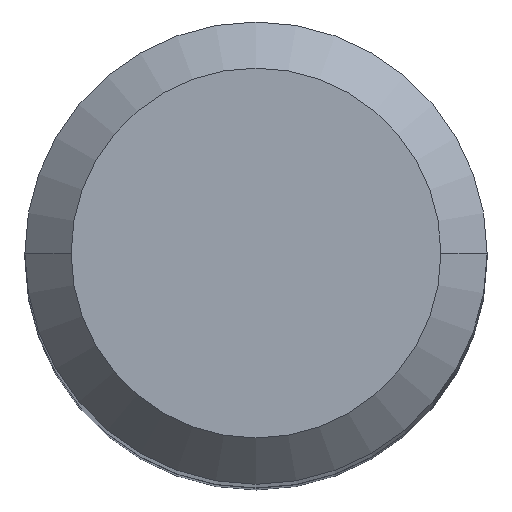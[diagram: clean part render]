
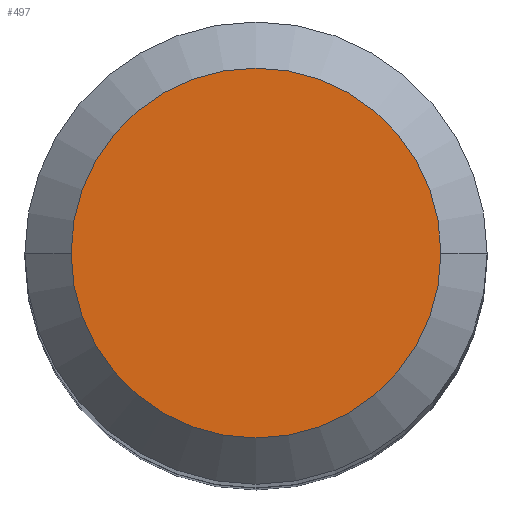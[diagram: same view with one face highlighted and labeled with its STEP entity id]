
A CAD part, top view. The second image highlights one B-rep face of the part: STEP entity #497.
In plain terms, the highlighted planar face has unit normal (0, 0, 1).
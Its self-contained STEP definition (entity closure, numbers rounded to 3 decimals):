
#17 = VERTEX_POINT ( 'NONE', #405 ) ;
#51 = DIRECTION ( 'NONE',  ( -1., 0., 0. ) ) ;
#53 = FACE_OUTER_BOUND ( 'NONE', #137, .T. ) ;
#58 = CARTESIAN_POINT ( 'NONE',  ( 0., 0., 0. ) ) ;
#60 = CARTESIAN_POINT ( 'NONE',  ( 0., 4., 0. ) ) ;
#70 = AXIS2_PLACEMENT_3D ( 'NONE', #60, #404, #402 ) ;
#97 = CARTESIAN_POINT ( 'NONE',  ( 0., 0., 0. ) ) ;
#98 = ORIENTED_EDGE ( 'NONE', *, *, #450, .F. ) ;
#131 = CARTESIAN_POINT ( 'NONE',  ( 4., 0., 0. ) ) ;
#133 = AXIS2_PLACEMENT_3D ( 'NONE', #97, #480, #51 ) ;
#137 = EDGE_LOOP ( 'NONE', ( #98, #509 ) ) ;
#148 = DIRECTION ( 'NONE',  ( 0., 0., -1. ) ) ;
#211 = PLANE ( 'NONE',  #70 ) ;
#215 = DIRECTION ( 'NONE',  ( -1., 0., 0. ) ) ;
#363 = CIRCLE ( 'NONE', #133, 4. ) ;
#402 = DIRECTION ( 'NONE',  ( 1., 0., 0. ) ) ;
#404 = DIRECTION ( 'NONE',  ( 0., 0., 1. ) ) ;
#405 = CARTESIAN_POINT ( 'NONE',  ( -4., 0., 0. ) ) ;
#427 = VERTEX_POINT ( 'NONE', #131 ) ;
#450 = EDGE_CURVE ( 'NONE', #17, #427, #363, .T. ) ;
#480 = DIRECTION ( 'NONE',  ( 0., 0., -1. ) ) ;
#497 = ADVANCED_FACE ( 'NONE', ( #53 ), #211, .T. ) ;
#504 = CIRCLE ( 'NONE', #618, 4. ) ;
#509 = ORIENTED_EDGE ( 'NONE', *, *, #556, .F. ) ;
#556 = EDGE_CURVE ( 'NONE', #427, #17, #504, .T. ) ;
#618 = AXIS2_PLACEMENT_3D ( 'NONE', #58, #148, #215 ) ;
